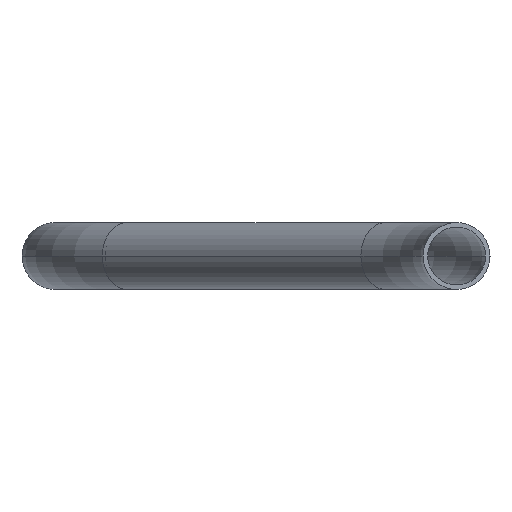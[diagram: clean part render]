
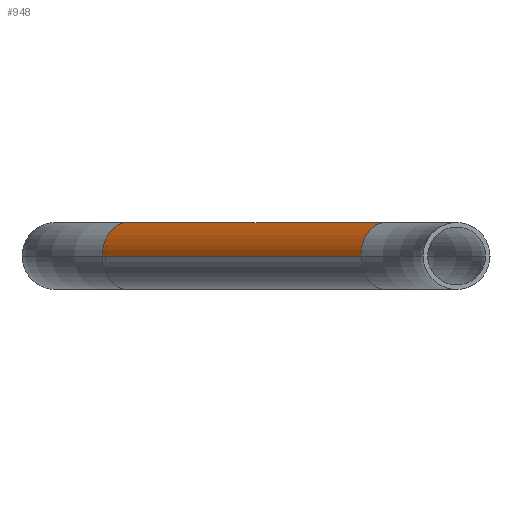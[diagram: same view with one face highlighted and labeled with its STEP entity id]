
A CAD part, front view. The second image highlights one B-rep face of the part: STEP entity #948.
In plain terms, the highlighted cylindrical face has radius 11 mm (diameter 22 mm), a partial arc.
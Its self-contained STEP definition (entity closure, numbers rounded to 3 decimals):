
#36 = CIRCLE ( 'NONE', #354, 11. ) ;
#45 = VECTOR ( 'NONE', #704, 1000. ) ;
#51 = LINE ( 'NONE', #695, #45 ) ;
#52 = VECTOR ( 'NONE', #710, 1000. ) ;
#55 = LINE ( 'NONE', #711, #52 ) ;
#60 = CIRCLE ( 'NONE', #359, 11. ) ;
#200 = ORIENTED_EDGE ( 'NONE', *, *, #473, .T. ) ;
#201 = ORIENTED_EDGE ( 'NONE', *, *, #462, .T. ) ;
#202 = ORIENTED_EDGE ( 'NONE', *, *, #463, .F. ) ;
#203 = ORIENTED_EDGE ( 'NONE', *, *, #464, .F. ) ;
#234 = FACE_OUTER_BOUND ( 'NONE', #981, .T. ) ;
#237 = CYLINDRICAL_SURFACE ( 'NONE', #335, 11. ) ;
#261 = VERTEX_POINT ( 'NONE', #816 ) ;
#275 = VERTEX_POINT ( 'NONE', #694 ) ;
#277 = VERTEX_POINT ( 'NONE', #567 ) ;
#283 = VERTEX_POINT ( 'NONE', #774 ) ;
#335 = AXIS2_PLACEMENT_3D ( 'NONE', #574, #576, #581 ) ;
#354 = AXIS2_PLACEMENT_3D ( 'NONE', #655, #654, #653 ) ;
#359 = AXIS2_PLACEMENT_3D ( 'NONE', #692, #691, #689 ) ;
#462 = EDGE_CURVE ( 'NONE', #261, #277, #55, .T. ) ;
#463 = EDGE_CURVE ( 'NONE', #275, #277, #60, .T. ) ;
#464 = EDGE_CURVE ( 'NONE', #283, #275, #51, .T. ) ;
#473 = EDGE_CURVE ( 'NONE', #283, #261, #36, .T. ) ;
#567 = CARTESIAN_POINT ( 'NONE',  ( -31.48, -157.298, -35. ) ) ;
#574 = CARTESIAN_POINT ( 'NONE',  ( -108.536, -59.235, -35. ) ) ;
#576 = DIRECTION ( 'NONE',  ( 0.685, -0.729, 0. ) ) ;
#581 = DIRECTION ( 'NONE',  ( 0.729, 0.685, 0. ) ) ;
#653 = DIRECTION ( 'NONE',  ( 0., 0., 1. ) ) ;
#654 = DIRECTION ( 'NONE',  ( 0.685, -0.729, 0. ) ) ;
#655 = CARTESIAN_POINT ( 'NONE',  ( -108.536, -59.235, -35. ) ) ;
#689 = DIRECTION ( 'NONE',  ( 0., 0., 1. ) ) ;
#691 = DIRECTION ( 'NONE',  ( 0.685, -0.729, 0. ) ) ;
#692 = CARTESIAN_POINT ( 'NONE',  ( -23.464, -149.765, -35. ) ) ;
#694 = CARTESIAN_POINT ( 'NONE',  ( -15.448, -142.233, -35. ) ) ;
#695 = CARTESIAN_POINT ( 'NONE',  ( -100.52, -51.702, -35. ) ) ;
#704 = DIRECTION ( 'NONE',  ( 0.685, -0.729, 0. ) ) ;
#710 = DIRECTION ( 'NONE',  ( 0.685, -0.729, 0. ) ) ;
#711 = CARTESIAN_POINT ( 'NONE',  ( -116.552, -66.767, -35. ) ) ;
#774 = CARTESIAN_POINT ( 'NONE',  ( -100.52, -51.702, -35. ) ) ;
#816 = CARTESIAN_POINT ( 'NONE',  ( -116.552, -66.767, -35. ) ) ;
#948 = ADVANCED_FACE ( 'NONE', ( #234 ), #237, .T. ) ;
#981 = EDGE_LOOP ( 'NONE', ( #200, #201, #202, #203 ) ) ;
